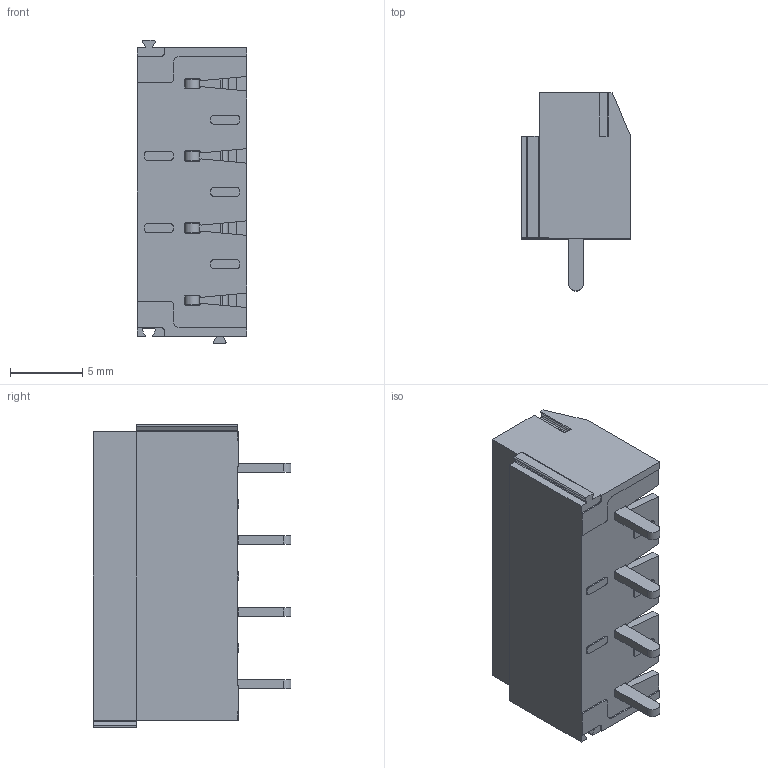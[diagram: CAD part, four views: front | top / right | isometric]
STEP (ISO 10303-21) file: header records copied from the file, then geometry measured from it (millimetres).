
FILE_DESCRIPTION((''),'2;1');
FILE_NAME('4PIN','2021-04-01T',('renkang.li'),(''),'CREO PARAMETRIC BY PTC INC, 2016260','CREO PARAMETRIC BY PTC INC, 2016260','');
FILE_SCHEMA(('CONFIG_CONTROL_DESIGN'));
Length unit declared in the file: millimetre
Products named in the file (1): 4PIN
Bounding box: 7.6 x 13.7 x 20.98 mm (x, y, z)
Volume: 951.6 mm3; surface area: 2542.5 mm2
Topology: 1 solids, 1 shells, 1016 faces, 3249 edges, 2134 vertices
Faces by surface type: plane 544, cylinder 372, bspline 48, torus 36, cone 12, extrusion 4
Entity records: 47195 total; most frequent: CARTESIAN_POINT 18683, ORIENTED_EDGE 6498, DIRECTION 5477, EDGE_CURVE 3249, VERTEX_POINT 2134, VECTOR 1933, LINE 1929, AXIS2_PLACEMENT_3D 1772
